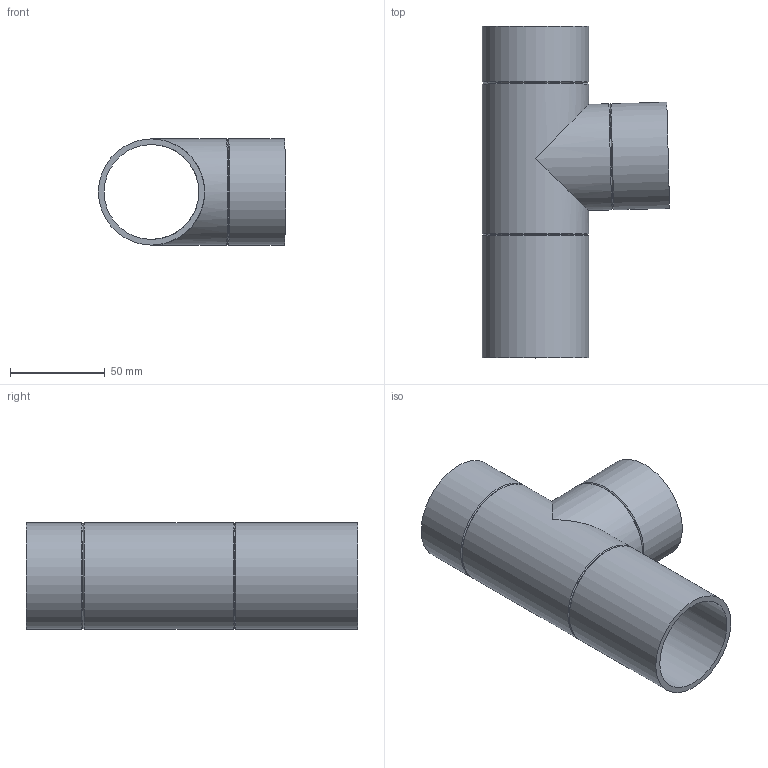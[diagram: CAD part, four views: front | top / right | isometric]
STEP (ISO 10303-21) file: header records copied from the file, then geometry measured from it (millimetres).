
FILE_DESCRIPTION(/* description */ (''),/* implementation_level */ '2;1');
FILE_NAME(/* name */ 'Z:\Geberit\Export\NewStep\363165.stp',/* time_stamp */ '2014-04-01T21:09:02+02:00',/* author */ ('nelson'),/* organization */ (''),/* preprocessor_version */ 'ST-DEVELOPER v15.2',/* originating_system */ 'Autodesk Inventor 2014',/* authorisation */ '');
FILE_SCHEMA (('AUTOMOTIVE_DESIGN { 1 0 10303 214 3 1 1 }'));
Length unit declared in the file: millimetre
Products named in the file (1): 363165
Bounding box: 98.71 x 175 x 56 mm (x, y, z)
Volume: 105338.5 mm3; surface area: 72046.3 mm2
Topology: 1 solids, 1 shells, 16 faces, 39 edges, 25 vertices
Faces by surface type: cylinder 7, cone 6, plane 3
Full cylindrical faces by diameter (mm): 50 x2, 56 x5
Entity records: 399 total; most frequent: DIRECTION 72, CARTESIAN_POINT 55, ORIENTED_EDGE 38, AXIS2_PLACEMENT_3D 36, EDGE_LOOP 34, FACE_BOUND 22, VERTEX_POINT 19, EDGE_CURVE 19
